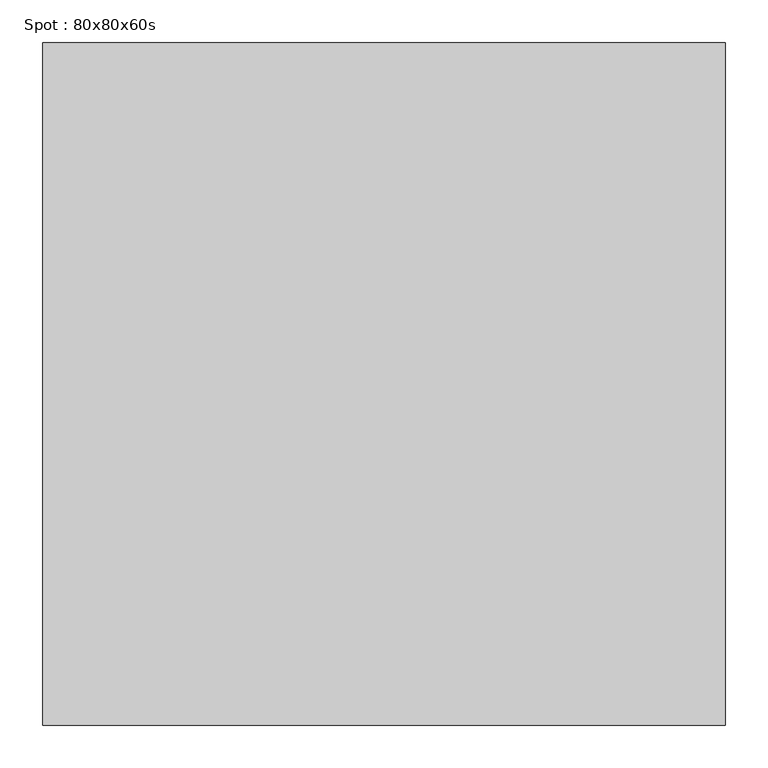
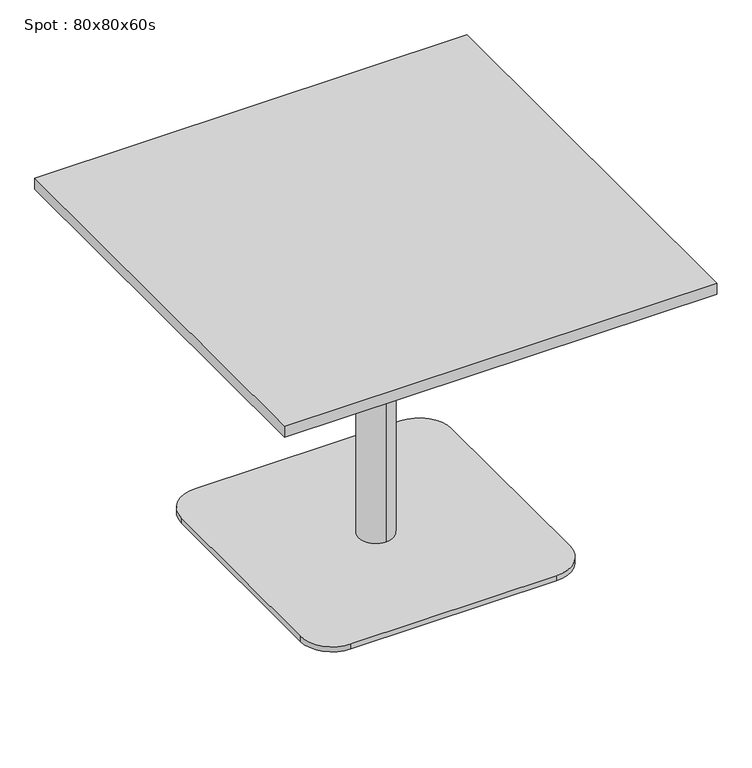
"""IFC4 building model written with IfcOpenShell, lengths in millimetres: furniture geometry, Spot : 80x80x60s."""

from ifc_helpers import new_model, si_unit, point, frame, frame_2d, origin, origin_with_axes, place, context, project, spatial, polyline, circle_curve, trimmed, segment, composite_curve, outline, extrude, source, transform, mapped, element, save
from ifc_brep_helpers import plane_surface, cylinder_surface, revolved_surface, advanced_brep


def spot_80x80x60s_08ea5ed7(model_context):
    return source(origin(), model_context, "Body", "SolidModel", [
        extrude(outline(polyline([(400.0, 400.0), (400.0, -400.0), (-400.0, -400.0), (-400.0, 400.0), (400.0, 400.0)])), frame((0.0, 0.0, 578.0), z_axis=(0.0, 0.0, 1.0), x_axis=(1.0, 0.0, 0.0)), (0.0, 0.0, 1.0), 22.0),
        extrude(outline(composite_curve([segment(trimmed(circle_curve(frame_2d((190.0, 190.0)), 60.0), [point((190.0, 250.0))], [point((250.0, 190.0))], False, "CARTESIAN"), True, "CONTINUOUS"), segment(polyline([(250.0, 190.0), (250.0, -190.0)]), True, "CONTINUOUS"), segment(trimmed(circle_curve(frame_2d((190.0, -190.0)), 60.0), [point((250.0, -190.0))], [point((190.0, -250.0))], False, "CARTESIAN"), True, "CONTINUOUS"), segment(polyline([(190.0, -250.0), (-190.0, -250.0)]), True, "CONTINUOUS"), segment(trimmed(circle_curve(frame_2d((-190.0, -190.0)), 60.0), [point((-190.0, -250.0))], [point((-250.0, -190.0))], False, "CARTESIAN"), True, "CONTINUOUS"), segment(polyline([(-250.0, -190.0), (-250.0, 190.0)]), True, "CONTINUOUS"), segment(trimmed(circle_curve(frame_2d((-190.0, 190.0)), 60.0), [point((-250.0, 190.0))], [point((-190.0, 250.0))], False, "CARTESIAN"), True, "CONTINUOUS"), segment(polyline([(-190.0, 250.0), (190.0, 250.0)]), True, "CONTINUOUS")], self_intersect=False)), origin_with_axes(), (0.0, 0.0, 1.0), 10.0),
        advanced_brep(
        [(0.0, 32.0, 10.0), (0.0, -32.0, 10.0), (0.0, -32.0, 547.406916), (0.0, 32.0, 547.406916), (0.0, 0.0, 10.0), (0.0, 150.0, 578.0), (0.0, -150.0, 578.0), (0.0, 0.0, 578.0), (0.0, 150.0, 566.7213673), (0.0, -150.0, 566.7213673)],
        [
            (0, 1, circle_curve(frame((0.0, 0.0, 10.0), z_axis=(0.0, 0.0, 1.0), x_axis=(0.0, -1.0, 0.0)), 32.0)),
            (1, 2),
            (2, 3, circle_curve(frame((0.0, 0.0, 547.406916), z_axis=(0.0, 0.0, -1.0), x_axis=(0.0, -1.0, 0.0)), 32.0)),
            (3, 0),
            (1, 0, circle_curve(frame((0.0, 0.0, 10.0), z_axis=(0.0, 0.0, 1.0), x_axis=(0.0, -1.0, 0.0)), 32.0)),
            (3, 2, circle_curve(frame((0.0, 0.0, 547.406916), z_axis=(0.0, 0.0, -1.0), x_axis=(0.0, -1.0, 0.0)), 32.0)),
            (4, 1),
            (0, 4),
            (5, 6, circle_curve(frame((0.0, 0.0, 578.0), z_axis=(0.0, 0.0, 1.0), x_axis=(0.0, -1.0, 0.0)), 150.0)),
            (6, 7),
            (7, 5),
            (6, 5, circle_curve(frame((0.0, 0.0, 578.0), z_axis=(0.0, 0.0, 1.0), x_axis=(0.0, -1.0, 0.0)), 150.0)),
            (8, 9, circle_curve(frame((0.0, 0.0, 566.7213673), z_axis=(0.0, 0.0, 1.0), x_axis=(0.0, -1.0, 0.0)), 150.0)),
            (9, 6),
            (5, 8),
            (9, 8, circle_curve(frame((0.0, 0.0, 566.7213673), z_axis=(0.0, 0.0, 1.0), x_axis=(0.0, -1.0, 0.0)), 150.0)),
            (2, 9),
            (8, 3),
        ],
        [
            cylinder_surface(frame((0.0, 0.0, 940.0), z_axis=(0.0, 0.0, -1.0), x_axis=(0.0, -1.0, 0.0)), 32.0),
            plane_surface(frame((0.0, 0.0, 10.0), z_axis=(0.0, 0.0, -1.0), x_axis=(0.0, -1.0, 0.0))),
            plane_surface(frame((0.0, 0.0, 578.0), z_axis=(0.0, 0.0, 1.0), x_axis=(0.0, -1.0, 0.0))),
            cylinder_surface(frame((0.0, 0.0, 940.0), z_axis=(0.0, 0.0, -1.0), x_axis=(0.0, -1.0, 0.0)), 150.0),
            revolved_surface(polyline([(0.0, -150.0, 566.7213673), (0.0, -32.0, 547.406916)]), (0.0, 0.0, 940.0), (0.0, 0.0, -1.0)),
        ],
        [
            (0, [[1, 2, 3, 4]]),
            (0, [[5, -4, 6, -2]]),
            (1, [[7, -1, 8]]),
            (1, [[-8, -5, -7]]),
            (2, [[9, 10, 11]]),
            (2, [[12, -11, -10]]),
            (3, [[13, 14, -9, 15]]),
            (3, [[16, -15, -12, -14]]),
            (4, [[-3, 17, -13, 18]]),
            (4, [[-6, -18, -16, -17]]),
        ],
    ),
        extrude(outline(polyline([(0.0, 0.0), (-20.0, 0.0), (-20.0, 20.0), (0.0, 20.0), (0.0, 0.0)])), origin_with_axes(), (0.0, 0.0, 1.0), 10.0),
    ])


if __name__ == "__main__":
    model = new_model("IFC4")
    model_context = context("Model", 3, world=origin())
    ifc_project = project(units=[si_unit("LENGTHUNIT", "METRE", prefix="MILLI")], contexts=[model_context])
    site = spatial("IfcSite", under=ifc_project)
    building = spatial("IfcBuilding", under=site)
    placement = place(None, origin())
    spot_80x80x60s_shape = spot_80x80x60s_08ea5ed7(model_context)
    element("IfcFurniture", 1, ObjectType="Spot : 80x80x60s", at=placement, inside=building, context=model_context, shape_type="MappedRepresentation", body=[
        mapped(spot_80x80x60s_shape, transform((0.0, 0.0, 0.0), x_axis=(1.0, 0.0, 0.0), y_axis=(0.0, 1.0, 0.0), z_axis=(0.0, 0.0, 1.0))),
    ])
    save(model, "model.ifc")
